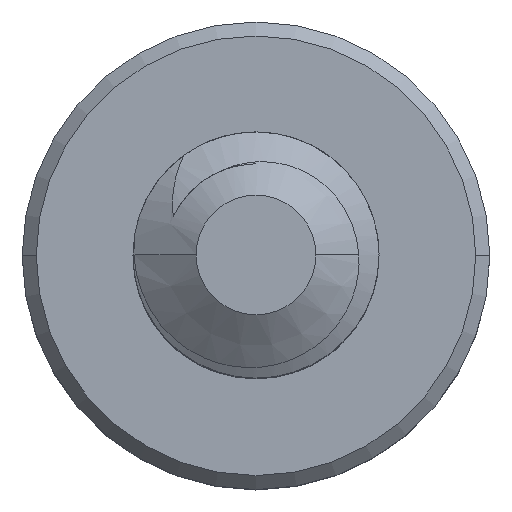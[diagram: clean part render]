
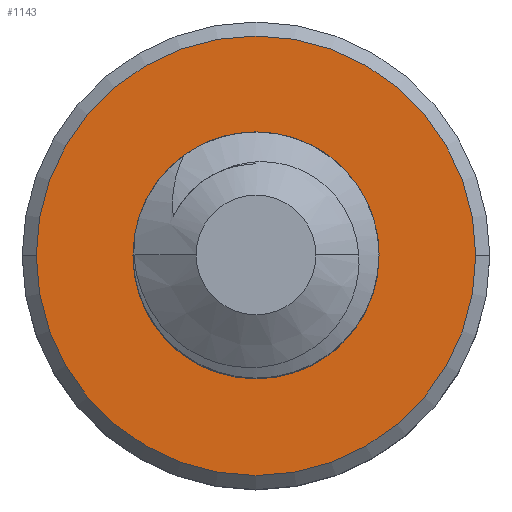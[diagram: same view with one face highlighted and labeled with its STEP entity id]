
A CAD part, top view. The second image highlights one B-rep face of the part: STEP entity #1143.
In plain terms, the highlighted planar face has unit normal (0, 0, 1).
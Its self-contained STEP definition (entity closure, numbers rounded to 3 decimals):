
#100 = ORIENTED_EDGE ( 'NONE', *, *, #409, .T. ) ;
#108 = ORIENTED_EDGE ( 'NONE', *, *, #2390, .F. ) ;
#166 = VERTEX_POINT ( 'NONE', #1869 ) ;
#226 = VERTEX_POINT ( 'NONE', #1604 ) ;
#232 = CARTESIAN_POINT ( 'NONE',  ( 0., 0., -4. ) ) ;
#245 = EDGE_LOOP ( 'NONE', ( #520, #100 ) ) ;
#251 = CARTESIAN_POINT ( 'NONE',  ( -1.786, 0., -4. ) ) ;
#255 = AXIS2_PLACEMENT_3D ( 'NONE', #625, #495, #659 ) ;
#258 = ORIENTED_EDGE ( 'NONE', *, *, #1956, .F. ) ;
#409 = EDGE_CURVE ( 'NONE', #764, #2257, #2953, .T. ) ;
#495 = DIRECTION ( 'NONE',  ( 0., 0., 1. ) ) ;
#520 = ORIENTED_EDGE ( 'NONE', *, *, #2877, .T. ) ;
#625 = CARTESIAN_POINT ( 'NONE',  ( 0., 0., -4. ) ) ;
#659 = DIRECTION ( 'NONE',  ( -1., 0., 0. ) ) ;
#738 = CARTESIAN_POINT ( 'NONE',  ( 0., 0., -4. ) ) ;
#764 = VERTEX_POINT ( 'NONE', #922 ) ;
#819 = PLANE ( 'NONE',  #1674 ) ;
#874 = DIRECTION ( 'NONE',  ( 0., 0., 1. ) ) ;
#922 = CARTESIAN_POINT ( 'NONE',  ( 1.786, 0., -4. ) ) ;
#996 = DIRECTION ( 'NONE',  ( 1., 0., 0. ) ) ;
#1035 = CIRCLE ( 'NONE', #1629, 1.786 ) ;
#1091 = DIRECTION ( 'NONE',  ( 0., 0., -1. ) ) ;
#1143 = ADVANCED_FACE ( 'NONE', ( #2205, #2121 ), #819, .F. ) ;
#1379 = CARTESIAN_POINT ( 'NONE',  ( 0., 0., -4. ) ) ;
#1604 = CARTESIAN_POINT ( 'NONE',  ( 1., 0., -4. ) ) ;
#1618 = DIRECTION ( 'NONE',  ( -1., 0., 0. ) ) ;
#1629 = AXIS2_PLACEMENT_3D ( 'NONE', #1379, #3018, #1618 ) ;
#1674 = AXIS2_PLACEMENT_3D ( 'NONE', #232, #1091, #2749 ) ;
#1869 = CARTESIAN_POINT ( 'NONE',  ( -1., 0., -4. ) ) ;
#1956 = EDGE_CURVE ( 'NONE', #226, #166, #2575, .T. ) ;
#2083 = EDGE_LOOP ( 'NONE', ( #258, #108 ) ) ;
#2121 = FACE_BOUND ( 'NONE', #2083, .T. ) ;
#2163 = CIRCLE ( 'NONE', #2432, 1. ) ;
#2205 = FACE_OUTER_BOUND ( 'NONE', #245, .T. ) ;
#2257 = VERTEX_POINT ( 'NONE', #251 ) ;
#2369 = CARTESIAN_POINT ( 'NONE',  ( 0., 0., -4. ) ) ;
#2390 = EDGE_CURVE ( 'NONE', #166, #226, #2163, .T. ) ;
#2432 = AXIS2_PLACEMENT_3D ( 'NONE', #2369, #874, #2588 ) ;
#2465 = DIRECTION ( 'NONE',  ( 0., 0., 1. ) ) ;
#2575 = CIRCLE ( 'NONE', #2688, 1. ) ;
#2588 = DIRECTION ( 'NONE',  ( 1., 0., 0. ) ) ;
#2688 = AXIS2_PLACEMENT_3D ( 'NONE', #738, #2465, #996 ) ;
#2749 = DIRECTION ( 'NONE',  ( -1., 0., 0. ) ) ;
#2877 = EDGE_CURVE ( 'NONE', #2257, #764, #1035, .T. ) ;
#2953 = CIRCLE ( 'NONE', #255, 1.786 ) ;
#3018 = DIRECTION ( 'NONE',  ( 0., 0., 1. ) ) ;
